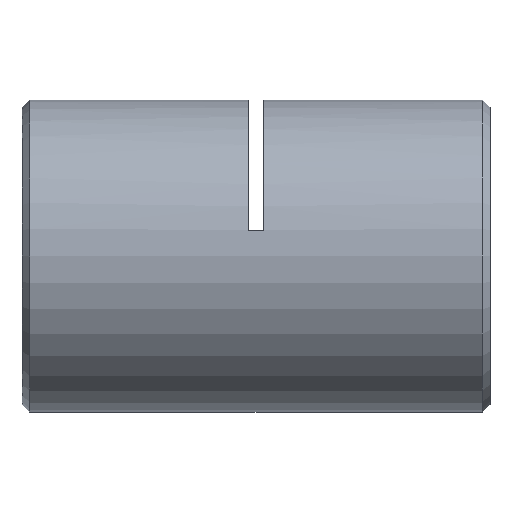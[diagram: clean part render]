
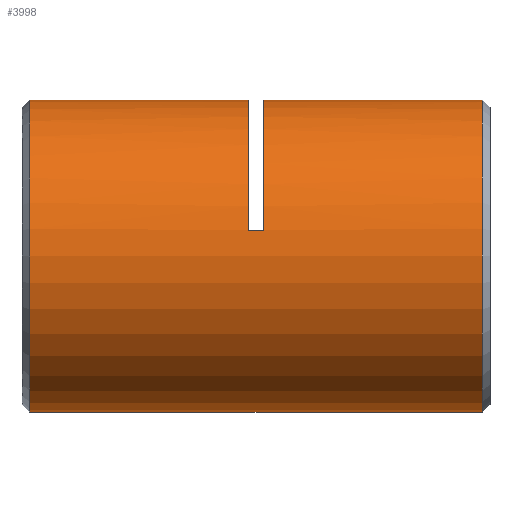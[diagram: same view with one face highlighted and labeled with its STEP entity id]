
A CAD part, left-side view. The second image highlights one B-rep face of the part: STEP entity #3998.
In plain terms, the highlighted cylindrical face has radius 10 mm (diameter 20 mm), a partial arc.
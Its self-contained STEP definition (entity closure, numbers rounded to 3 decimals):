
#13 = VERTEX_POINT ( 'NONE', #919 ) ;
#32 = CIRCLE ( 'NONE', #2940, 10. ) ;
#59 = CARTESIAN_POINT ( 'NONE',  ( 0., 29.75, 10. ) ) ;
#154 = VECTOR ( 'NONE', #4651, 1000. ) ;
#255 = VERTEX_POINT ( 'NONE', #590 ) ;
#296 = EDGE_CURVE ( 'NONE', #2306, #5044, #4542, .T. ) ;
#349 = CARTESIAN_POINT ( 'NONE',  ( 0., 29.75, 0. ) ) ;
#453 = EDGE_CURVE ( 'NONE', #2474, #2306, #32, .T. ) ;
#487 = LINE ( 'NONE', #5693, #5474 ) ;
#506 = EDGE_CURVE ( 'NONE', #13, #2474, #2941, .T. ) ;
#590 = CARTESIAN_POINT ( 'NONE',  ( 0., 0.75, -10. ) ) ;
#631 = CARTESIAN_POINT ( 'NONE',  ( 0., 15.75, 0. ) ) ;
#680 = ORIENTED_EDGE ( 'NONE', *, *, #296, .T. ) ;
#727 = DIRECTION ( 'NONE',  ( 0., 1., 0. ) ) ;
#737 = ORIENTED_EDGE ( 'NONE', *, *, #2785, .T. ) ;
#825 = CARTESIAN_POINT ( 'NONE',  ( 0., 14.75, 0. ) ) ;
#919 = CARTESIAN_POINT ( 'NONE',  ( -9.86, 14.75, 1.667 ) ) ;
#1018 = CARTESIAN_POINT ( 'NONE',  ( 0., 14.75, 10. ) ) ;
#1020 = DIRECTION ( 'NONE',  ( 0., 1., 0. ) ) ;
#1033 = CARTESIAN_POINT ( 'NONE',  ( 0., 0., -10. ) ) ;
#1060 = CIRCLE ( 'NONE', #3562, 10. ) ;
#1233 = VECTOR ( 'NONE', #1020, 1000. ) ;
#1396 = VERTEX_POINT ( 'NONE', #3993 ) ;
#1430 = EDGE_CURVE ( 'NONE', #13, #3340, #2636, .T. ) ;
#1481 = DIRECTION ( 'NONE',  ( 0., 0., 1. ) ) ;
#1742 = ORIENTED_EDGE ( 'NONE', *, *, #4571, .T. ) ;
#1779 = AXIS2_PLACEMENT_3D ( 'NONE', #825, #2653, #3162 ) ;
#1791 = EDGE_LOOP ( 'NONE', ( #3722, #737, #1742, #5834, #3252, #4875, #680, #3911 ) ) ;
#2076 = DIRECTION ( 'NONE',  ( 0., 1., 0. ) ) ;
#2203 = DIRECTION ( 'NONE',  ( 0., -1., 0. ) ) ;
#2216 = VERTEX_POINT ( 'NONE', #4459 ) ;
#2251 = DIRECTION ( 'NONE',  ( 0., 0., 1. ) ) ;
#2306 = VERTEX_POINT ( 'NONE', #4522 ) ;
#2350 = EDGE_CURVE ( 'NONE', #255, #1396, #4729, .T. ) ;
#2474 = VERTEX_POINT ( 'NONE', #3004 ) ;
#2636 = CIRCLE ( 'NONE', #1779, 10. ) ;
#2653 = DIRECTION ( 'NONE',  ( 0., 1., 0. ) ) ;
#2785 = EDGE_CURVE ( 'NONE', #255, #2216, #1060, .T. ) ;
#2829 = CARTESIAN_POINT ( 'NONE',  ( -9.86, 15.25, 1.667 ) ) ;
#2940 = AXIS2_PLACEMENT_3D ( 'NONE', #631, #4618, #1481 ) ;
#2941 = LINE ( 'NONE', #2829, #1233 ) ;
#3004 = CARTESIAN_POINT ( 'NONE',  ( -9.86, 15.75, 1.667 ) ) ;
#3080 = AXIS2_PLACEMENT_3D ( 'NONE', #349, #2203, #3565 ) ;
#3143 = EDGE_CURVE ( 'NONE', #5044, #1396, #4581, .T. ) ;
#3162 = DIRECTION ( 'NONE',  ( 0., 0., 1. ) ) ;
#3248 = CYLINDRICAL_SURFACE ( 'NONE', #5777, 10. ) ;
#3252 = ORIENTED_EDGE ( 'NONE', *, *, #506, .T. ) ;
#3340 = VERTEX_POINT ( 'NONE', #1018 ) ;
#3360 = VECTOR ( 'NONE', #4654, 1000. ) ;
#3562 = AXIS2_PLACEMENT_3D ( 'NONE', #3876, #727, #3851 ) ;
#3565 = DIRECTION ( 'NONE',  ( 0., 0., -1. ) ) ;
#3722 = ORIENTED_EDGE ( 'NONE', *, *, #2350, .F. ) ;
#3851 = DIRECTION ( 'NONE',  ( 0., 0., 1. ) ) ;
#3876 = CARTESIAN_POINT ( 'NONE',  ( 0., 0.75, 0. ) ) ;
#3911 = ORIENTED_EDGE ( 'NONE', *, *, #3143, .T. ) ;
#3993 = CARTESIAN_POINT ( 'NONE',  ( 0., 29.75, -10. ) ) ;
#3998 = ADVANCED_FACE ( 'NONE', ( #4993 ), #3248, .T. ) ;
#4459 = CARTESIAN_POINT ( 'NONE',  ( 0., 0.75, 10. ) ) ;
#4522 = CARTESIAN_POINT ( 'NONE',  ( 0., 15.75, 10. ) ) ;
#4542 = LINE ( 'NONE', #5538, #3360 ) ;
#4558 = CARTESIAN_POINT ( 'NONE',  ( 0., 0., 0. ) ) ;
#4571 = EDGE_CURVE ( 'NONE', #2216, #3340, #487, .T. ) ;
#4581 = CIRCLE ( 'NONE', #3080, 10. ) ;
#4618 = DIRECTION ( 'NONE',  ( 0., 1., 0. ) ) ;
#4651 = DIRECTION ( 'NONE',  ( 0., 1., 0. ) ) ;
#4654 = DIRECTION ( 'NONE',  ( 0., 1., 0. ) ) ;
#4729 = LINE ( 'NONE', #1033, #154 ) ;
#4875 = ORIENTED_EDGE ( 'NONE', *, *, #453, .T. ) ;
#4993 = FACE_OUTER_BOUND ( 'NONE', #1791, .T. ) ;
#5044 = VERTEX_POINT ( 'NONE', #59 ) ;
#5474 = VECTOR ( 'NONE', #2076, 1000. ) ;
#5538 = CARTESIAN_POINT ( 'NONE',  ( 0., 0., 10. ) ) ;
#5693 = CARTESIAN_POINT ( 'NONE',  ( 0., 0., 10. ) ) ;
#5777 = AXIS2_PLACEMENT_3D ( 'NONE', #4558, #5820, #2251 ) ;
#5820 = DIRECTION ( 'NONE',  ( 0., 1., 0. ) ) ;
#5834 = ORIENTED_EDGE ( 'NONE', *, *, #1430, .F. ) ;
